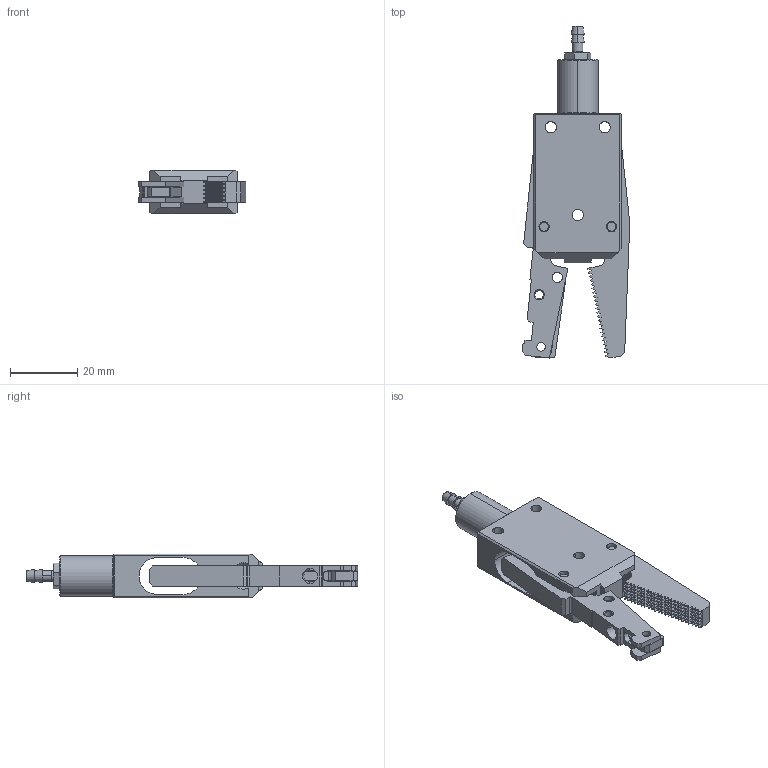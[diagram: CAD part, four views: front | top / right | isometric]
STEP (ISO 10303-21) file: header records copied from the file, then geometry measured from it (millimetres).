
FILE_DESCRIPTION (( 'STEP AP214' ), '1' );
FILE_NAME ('GRM12A-C.STEP', '2023-03-08T01:44:40', ( '微软用户' ), ( '微软中国' ), 'SwSTEP 2.0', 'SolidWorks 2018', '' );
FILE_SCHEMA (( 'AUTOMOTIVE_DESIGN' ));
Length unit declared in the file: millimetre
Products named in the file (2): GRM12A-C
Bounding box: 31.88 x 98.39 x 13 mm (x, y, z)
Volume: 14796.7 mm3; surface area: 11251.7 mm2
Topology: 7 solids, 7 shells, 862 faces, 1968 edges, 1123 vertices
Faces by surface type: plane 770, cylinder 66, cone 24, bspline 2
Entity records: 23566 total; most frequent: CARTESIAN_POINT 4299, ORIENTED_EDGE 3936, DIRECTION 3829, EDGE_CURVE 1968, LINE 1769, VECTOR 1769, VERTEX_POINT 1123, AXIS2_PLACEMENT_3D 1030
